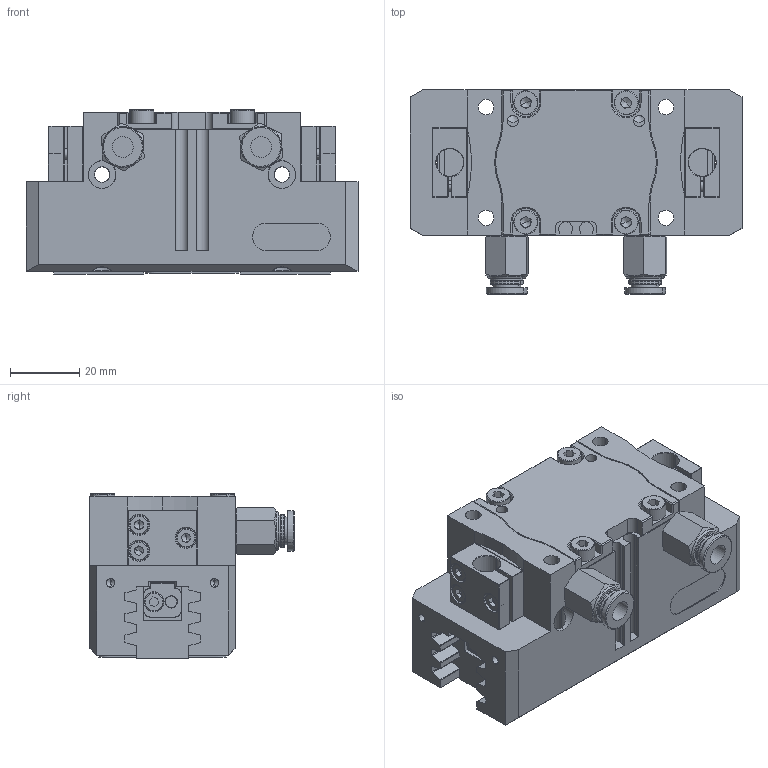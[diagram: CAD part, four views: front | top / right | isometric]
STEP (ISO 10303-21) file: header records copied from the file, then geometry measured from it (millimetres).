
FILE_DESCRIPTION (( 'STEP AP214' ), '1' );
FILE_NAME ('FPT-80B-1蚾饜极.STEP', '2024-11-12T08:48:58', ( '' ), ( '' ), 'SwSTEP 2.0', 'SolidWorks 2018', '' );
FILE_SCHEMA (( 'AUTOMOTIVE_DESIGN' ));
Length unit declared in the file: millimetre
Products named in the file (1): FPT-80B-1蚾饜极
Bounding box: 96 x 59.05 x 47.65 mm (x, y, z)
Volume: 140386.8 mm3; surface area: 42043.7 mm2
Topology: 1 solids, 27 shells, 1386 faces, 3477 edges, 2119 vertices
Faces by surface type: plane 675, cylinder 397, cone 250, torus 60, bspline 4
Entity records: 49917 total; most frequent: CARTESIAN_POINT 9651, DIRECTION 7258, ORIENTED_EDGE 6792, EDGE_CURVE 3396, AXIS2_PLACEMENT_3D 2619, VERTEX_POINT 2119, LINE 2020, VECTOR 2020
